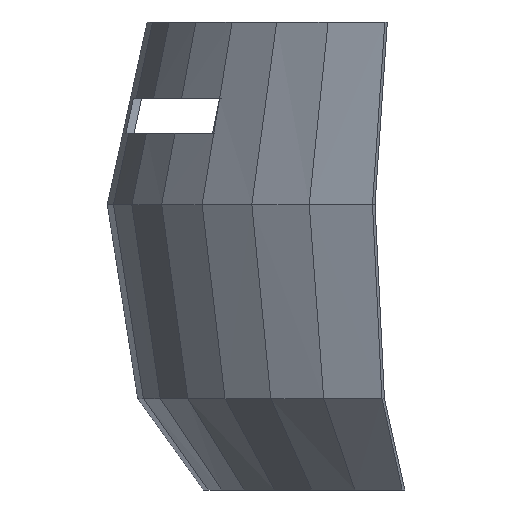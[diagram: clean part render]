
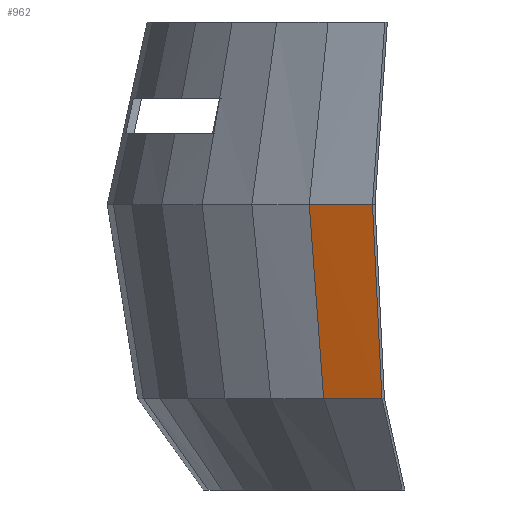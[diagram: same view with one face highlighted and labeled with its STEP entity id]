
A CAD part, left-side view. The second image highlights one B-rep face of the part: STEP entity #962.
In plain terms, the highlighted free-form (B-spline) face has degree [1, 1] with [2, 2] control points.
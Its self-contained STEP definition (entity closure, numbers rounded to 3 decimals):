
#32 = B_SPLINE_SURFACE_WITH_KNOTS('',1,1,(
    (#33,#34)
    ,(#35,#36
    )),.UNSPECIFIED.,.F.,.F.,.F.,(2,2),(2,2),(0.,26.222),(0.,1.
    ),.PIECEWISE_BEZIER_KNOTS.);
#33 = CARTESIAN_POINT('',(-82.742,38.009,-31.));
#34 = CARTESIAN_POINT('',(-111.274,46.662,8.));
#35 = CARTESIAN_POINT('',(-76.612,58.286,-31.));
#36 = CARTESIAN_POINT('',(-103.03,71.554,8.));
#56 = VERTEX_POINT('',#57);
#57 = CARTESIAN_POINT('',(-103.03,71.554,8.));
#82 = EDGE_CURVE('',#83,#56,#85,.T.);
#83 = VERTEX_POINT('',#84);
#84 = CARTESIAN_POINT('',(-111.274,46.662,8.));
#85 = SURFACE_CURVE('',#86,(#90,#97),.PCURVE_S1.);
#86 = LINE('',#87,#88);
#87 = CARTESIAN_POINT('',(-111.274,46.662,8.));
#88 = VECTOR('',#89,1.);
#89 = DIRECTION('',(0.314,0.949,0.));
#90 = PCURVE('',#32,#91);
#91 = DEFINITIONAL_REPRESENTATION('',(#92),#96);
#92 = LINE('',#93,#94);
#93 = CARTESIAN_POINT('',(0.,1.));
#94 = VECTOR('',#95,1.);
#95 = DIRECTION('',(1.,0.));
#96 = ( GEOMETRIC_REPRESENTATION_CONTEXT(2) 
PARAMETRIC_REPRESENTATION_CONTEXT() REPRESENTATION_CONTEXT('2D SPACE',''
  ) );
#97 = PCURVE('',#98,#103);
#98 = B_SPLINE_SURFACE_WITH_KNOTS('',1,1,(
    (#99,#100)
    ,(#101,#102
    )),.UNSPECIFIED.,.F.,.F.,.F.,(2,2),(2,2),(0.,28.456),(0.,1.
    ),.PIECEWISE_BEZIER_KNOTS.);
#99 = CARTESIAN_POINT('',(-111.274,46.662,8.));
#100 = CARTESIAN_POINT('',(-119.833,50.679,91.));
#101 = CARTESIAN_POINT('',(-103.03,71.554,8.));
#102 = CARTESIAN_POINT('',(-110.955,77.714,91.));
#103 = DEFINITIONAL_REPRESENTATION('',(#104),#107);
#104 = B_SPLINE_CURVE_WITH_KNOTS('',1,(#105,#106),.UNSPECIFIED.,.F.,.F.,
  (2,2),(0.,26.222),.PIECEWISE_BEZIER_KNOTS.);
#105 = CARTESIAN_POINT('',(0.,0.));
#106 = CARTESIAN_POINT('',(28.456,0.));
#107 = ( GEOMETRIC_REPRESENTATION_CONTEXT(2) 
PARAMETRIC_REPRESENTATION_CONTEXT() REPRESENTATION_CONTEXT('2D SPACE',''
  ) );
#951 = B_SPLINE_SURFACE_WITH_KNOTS('',1,1,(
    (#952,#953)
    ,(#954,#955
    )),.UNSPECIFIED.,.F.,.F.,.F.,(2,2),(2,2),(0.,27.513),(0.,1.
    ),.PIECEWISE_BEZIER_KNOTS.);
#952 = CARTESIAN_POINT('',(-103.03,71.554,8.));
#953 = CARTESIAN_POINT('',(-110.955,77.714,91.));
#954 = CARTESIAN_POINT('',(-91.474,94.147,8.));
#955 = CARTESIAN_POINT('',(-98.511,102.252,91.));
#962 = ADVANCED_FACE('',(#963),#98,.F.);
#963 = FACE_BOUND('',#964,.F.);
#964 = EDGE_LOOP('',(#965,#966,#988,#1016));
#965 = ORIENTED_EDGE('',*,*,#82,.T.);
#966 = ORIENTED_EDGE('',*,*,#967,.T.);
#967 = EDGE_CURVE('',#56,#968,#970,.T.);
#968 = VERTEX_POINT('',#969);
#969 = CARTESIAN_POINT('',(-110.955,77.714,91.));
#970 = SURFACE_CURVE('',#971,(#974,#981),.PCURVE_S1.);
#971 = B_SPLINE_CURVE_WITH_KNOTS('',1,(#972,#973),.UNSPECIFIED.,.F.,.F.,
  (2,2),(0.,1.),.PIECEWISE_BEZIER_KNOTS.);
#972 = CARTESIAN_POINT('',(-103.03,71.554,8.));
#973 = CARTESIAN_POINT('',(-110.955,77.714,91.));
#974 = PCURVE('',#98,#975);
#975 = DEFINITIONAL_REPRESENTATION('',(#976),#980);
#976 = LINE('',#977,#978);
#977 = CARTESIAN_POINT('',(28.456,0.));
#978 = VECTOR('',#979,1.);
#979 = DIRECTION('',(0.,1.));
#980 = ( GEOMETRIC_REPRESENTATION_CONTEXT(2) 
PARAMETRIC_REPRESENTATION_CONTEXT() REPRESENTATION_CONTEXT('2D SPACE',''
  ) );
#981 = PCURVE('',#951,#982);
#982 = DEFINITIONAL_REPRESENTATION('',(#983),#987);
#983 = LINE('',#984,#985);
#984 = CARTESIAN_POINT('',(0.,0.));
#985 = VECTOR('',#986,1.);
#986 = DIRECTION('',(0.,1.));
#987 = ( GEOMETRIC_REPRESENTATION_CONTEXT(2) 
PARAMETRIC_REPRESENTATION_CONTEXT() REPRESENTATION_CONTEXT('2D SPACE',''
  ) );
#988 = ORIENTED_EDGE('',*,*,#989,.F.);
#989 = EDGE_CURVE('',#990,#968,#992,.T.);
#990 = VERTEX_POINT('',#991);
#991 = CARTESIAN_POINT('',(-119.833,50.679,91.));
#992 = SURFACE_CURVE('',#993,(#997,#1004),.PCURVE_S1.);
#993 = LINE('',#994,#995);
#994 = CARTESIAN_POINT('',(-119.833,50.679,91.));
#995 = VECTOR('',#996,1.);
#996 = DIRECTION('',(0.312,0.95,0.));
#997 = PCURVE('',#98,#998);
#998 = DEFINITIONAL_REPRESENTATION('',(#999),#1003);
#999 = LINE('',#1000,#1001);
#1000 = CARTESIAN_POINT('',(0.,1.));
#1001 = VECTOR('',#1002,1.);
#1002 = DIRECTION('',(1.,0.));
#1003 = ( GEOMETRIC_REPRESENTATION_CONTEXT(2) 
PARAMETRIC_REPRESENTATION_CONTEXT() REPRESENTATION_CONTEXT('2D SPACE',''
  ) );
#1004 = PCURVE('',#1005,#1010);
#1005 = B_SPLINE_SURFACE_WITH_KNOTS('',1,1,(
    (#1006,#1007)
    ,(#1008,#1009
    )),.UNSPECIFIED.,.F.,.F.,.F.,(2,2),(2,2),(0.,28.456),(0.,1.
    ),.PIECEWISE_BEZIER_KNOTS.);
#1006 = CARTESIAN_POINT('',(-119.833,50.679,91.));
#1007 = CARTESIAN_POINT('',(-115.078,45.425,169.));
#1008 = CARTESIAN_POINT('',(-110.955,77.714,91.));
#1009 = CARTESIAN_POINT('',(-106.552,69.659,169.));
#1010 = DEFINITIONAL_REPRESENTATION('',(#1011),#1015);
#1011 = LINE('',#1012,#1013);
#1012 = CARTESIAN_POINT('',(0.,0.));
#1013 = VECTOR('',#1014,1.);
#1014 = DIRECTION('',(1.,0.));
#1015 = ( GEOMETRIC_REPRESENTATION_CONTEXT(2) 
PARAMETRIC_REPRESENTATION_CONTEXT() REPRESENTATION_CONTEXT('2D SPACE',''
  ) );
#1016 = ORIENTED_EDGE('',*,*,#1017,.F.);
#1017 = EDGE_CURVE('',#83,#990,#1018,.T.);
#1018 = SURFACE_CURVE('',#1019,(#1022,#1029),.PCURVE_S1.);
#1019 = B_SPLINE_CURVE_WITH_KNOTS('',1,(#1020,#1021),.UNSPECIFIED.,.F.,
  .F.,(2,2),(0.,1.),.PIECEWISE_BEZIER_KNOTS.);
#1020 = CARTESIAN_POINT('',(-111.274,46.662,8.));
#1021 = CARTESIAN_POINT('',(-119.833,50.679,91.));
#1022 = PCURVE('',#98,#1023);
#1023 = DEFINITIONAL_REPRESENTATION('',(#1024),#1028);
#1024 = LINE('',#1025,#1026);
#1025 = CARTESIAN_POINT('',(0.,0.));
#1026 = VECTOR('',#1027,1.);
#1027 = DIRECTION('',(0.,1.));
#1028 = ( GEOMETRIC_REPRESENTATION_CONTEXT(2) 
PARAMETRIC_REPRESENTATION_CONTEXT() REPRESENTATION_CONTEXT('2D SPACE',''
  ) );
#1029 = PCURVE('',#1030,#1035);
#1030 = B_SPLINE_SURFACE_WITH_KNOTS('',1,1,(
    (#1031,#1032)
    ,(#1033,#1034
    )),.UNSPECIFIED.,.F.,.F.,.F.,(2,2),(2,2),(0.,3.5),(0.,1.),
  .PIECEWISE_BEZIER_KNOTS.);
#1031 = CARTESIAN_POINT('',(-107.945,45.58,8.));
#1032 = CARTESIAN_POINT('',(-116.504,49.597,91.));
#1033 = CARTESIAN_POINT('',(-111.274,46.662,8.));
#1034 = CARTESIAN_POINT('',(-119.833,50.679,91.));
#1035 = DEFINITIONAL_REPRESENTATION('',(#1036),#1040);
#1036 = LINE('',#1037,#1038);
#1037 = CARTESIAN_POINT('',(3.5,0.));
#1038 = VECTOR('',#1039,1.);
#1039 = DIRECTION('',(0.,1.));
#1040 = ( GEOMETRIC_REPRESENTATION_CONTEXT(2) 
PARAMETRIC_REPRESENTATION_CONTEXT() REPRESENTATION_CONTEXT('2D SPACE',''
  ) );
